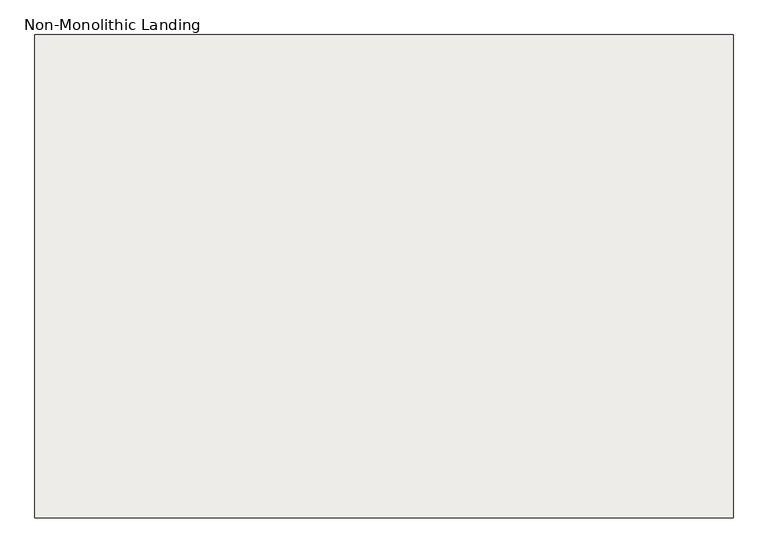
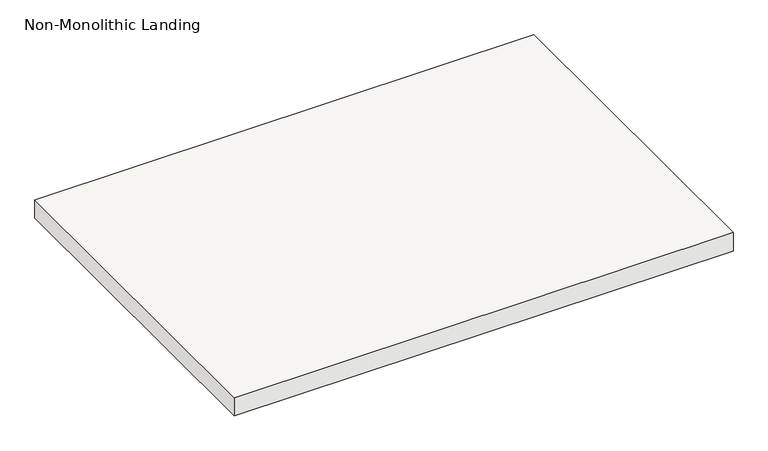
"""IFC4 building model written with IfcOpenShell, lengths in millimetres: slab geometry, Non-Monolithic Landing."""

from ifc_helpers import new_model, si_unit, frame, origin, place, context, project, spatial, polyline, outline, extrude, source, transform, mapped, element, save


def non_monolithic_landing_f9f2de40(model_context):
    return source(origin(), model_context, "Body", "SweptSolid", [
        extrude(outline(polyline([(136852.1523809, 16760.4395941), (138172.9523809, 16760.4395941), (138172.9523809, 15846.0395941), (136852.1523809, 15846.0395941), (136852.1523809, 16760.4395941)])), frame((0.0, 0.0, 2126.3428571), z_axis=(0.0, 0.0, 1.0), x_axis=(1.0, 0.0, 0.0)), (0.0, 0.0, 1.0), 50.8),
    ])


if __name__ == "__main__":
    model = new_model("IFC4")
    model_context = context("Model", 3, world=origin())
    ifc_project = project(units=[si_unit("LENGTHUNIT", "METRE", prefix="MILLI")], contexts=[model_context])
    site = spatial("IfcSite", under=ifc_project)
    building = spatial("IfcBuilding", under=site)
    placement = place(None, origin())
    non_monolithic_landing_shape = non_monolithic_landing_f9f2de40(model_context)
    element("IfcSlab", 1, ObjectType="Non-Monolithic Landing", at=placement, inside=building, context=model_context, shape_type="MappedRepresentation", body=[
        mapped(non_monolithic_landing_shape, transform((0.0, 0.0, 0.0), x_axis=(1.0, 0.0, 0.0), y_axis=(0.0, 1.0, 0.0), z_axis=(0.0, 0.0, 1.0))),
    ])
    save(model, "model.ifc")
